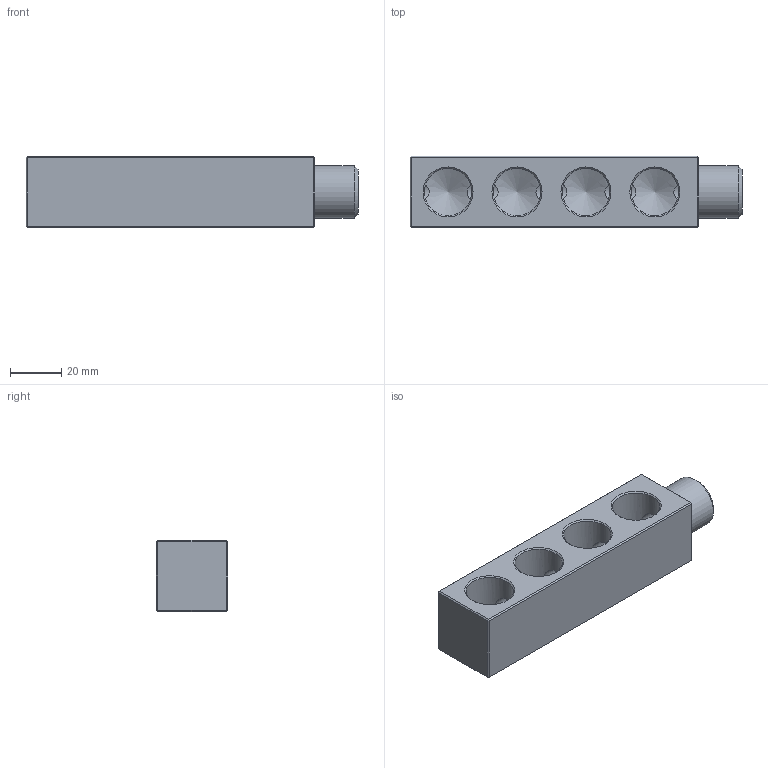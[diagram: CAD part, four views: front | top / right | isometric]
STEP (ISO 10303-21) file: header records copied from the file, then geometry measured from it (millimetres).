
FILE_DESCRIPTION(/* description */ (''),/* implementation_level */ '2;1');
FILE_NAME(/* name */ '60105000027.stp',/* time_stamp */ '2022-06-14T14:51:13+08:00',/* author */ (''),/* organization */ (''),/* preprocessor_version */ 'ST-DEVELOPER v11',/* originating_system */ 'SIEMENS PLM Software NX 7.5',/* authorisation */ '');
FILE_SCHEMA (('CONFIG_CONTROL_DESIGN'));
Length unit declared in the file: millimetre
Products named in the file (1): Admi5148g0wu
Bounding box: 130 x 28 x 28 mm (x, y, z)
Volume: 68599 mm3; surface area: 20434.1 mm2
Topology: 1 solids, 1 shells, 47 faces, 120 edges, 69 vertices
Faces by surface type: plane 27, cylinder 10, cone 10
Full cylindrical faces by diameter (mm): 10 x4, 18.6 x4, 20.5 x1
Entity records: 1382 total; most frequent: CARTESIAN_POINT 354, DIRECTION 186, ORIENTED_EDGE 170, EDGE_CURVE 85, AXIS2_PLACEMENT_3D 69, EDGE_LOOP 68, VERTEX_POINT 57, LINE 48
